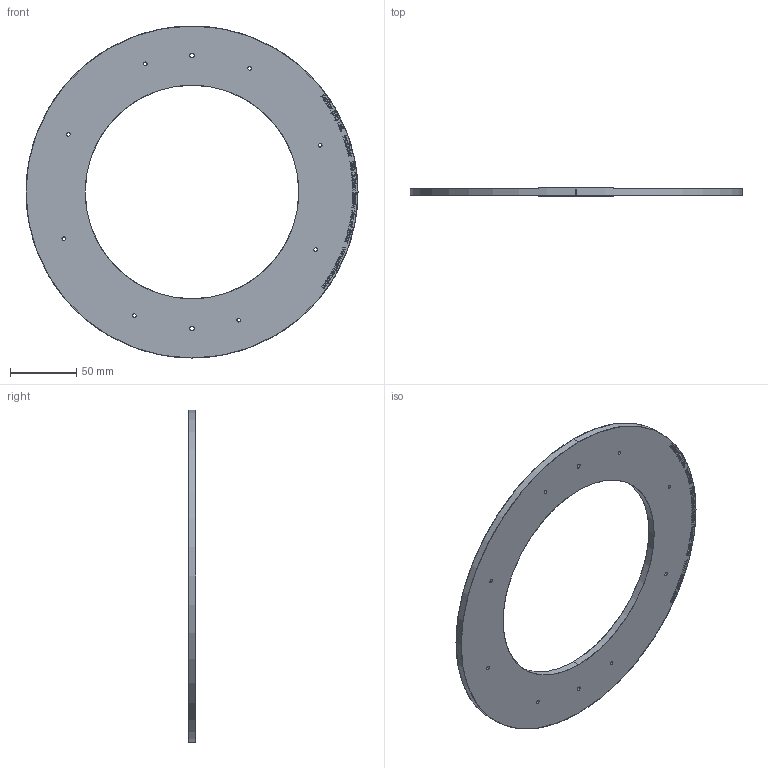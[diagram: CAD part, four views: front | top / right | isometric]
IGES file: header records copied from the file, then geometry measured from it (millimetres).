
Start section: SolidWorks IGES file using analytic representation for surfaces
Global section: file name: C:\Zettlex Data\Mechanical Drawings\1011\250 Duplex Screw Mount Rotor Rev 1-2.IGS; native system: SolidWorks 2015; preprocessor: SolidWorks 2015; author: Nigel; date: 150914.153817; units: millimetre
Bounding box: 250 x 5.6 x 250 mm (x, y, z)
Surface area: 65498.9 mm2 (no closed solid volume)
Topology: 0 solids, 0 shells, 803 faces, 9683 edges, 9683 vertices
Faces by surface type: bspline 763, revolution 40
